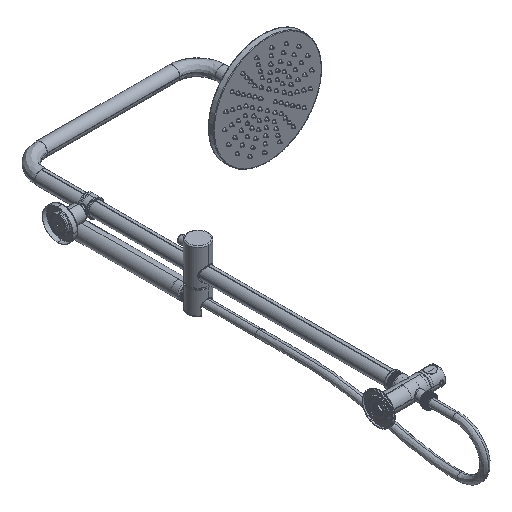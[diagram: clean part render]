
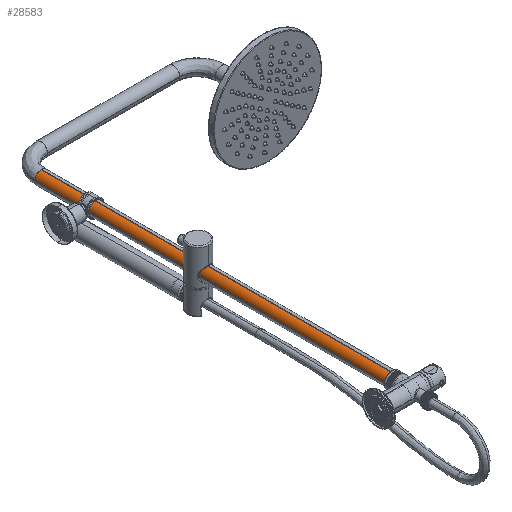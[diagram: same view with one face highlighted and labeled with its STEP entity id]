
A CAD part, isometric view. The second image highlights one B-rep face of the part: STEP entity #28583.
In plain terms, the highlighted cylindrical face has radius 12.5 mm (diameter 25 mm), a partial arc.
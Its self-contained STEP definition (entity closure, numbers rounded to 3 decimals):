
#1572 = VERTEX_POINT ( 'NONE', #90751 ) ;
#2021 = VECTOR ( 'NONE', #104602, 1000. ) ;
#14437 = VERTEX_POINT ( 'NONE', #61412 ) ;
#18488 = CIRCLE ( 'NONE', #69126, 12.5 ) ;
#18535 = CYLINDRICAL_SURFACE ( 'NONE', #29528, 12.5 ) ;
#23932 = DIRECTION ( 'NONE',  ( 0., 1., 0. ) ) ;
#24786 = VECTOR ( 'NONE', #97932, 1000. ) ;
#28583 = ADVANCED_FACE ( 'NONE', ( #83779 ), #18535, .T. ) ;
#29528 = AXIS2_PLACEMENT_3D ( 'NONE', #36822, #81375, #92353 ) ;
#33244 = DIRECTION ( 'NONE',  ( 0., 0., 1. ) ) ;
#36822 = CARTESIAN_POINT ( 'NONE',  ( 0., 0., 0. ) ) ;
#37869 = VERTEX_POINT ( 'NONE', #98079 ) ;
#38213 = EDGE_CURVE ( 'NONE', #14437, #51148, #18488, .T. ) ;
#39321 = LINE ( 'NONE', #75362, #2021 ) ;
#40599 = DIRECTION ( 'NONE',  ( 0., -1., 0. ) ) ;
#42833 = EDGE_CURVE ( 'NONE', #51148, #1572, #116233, .T. ) ;
#48496 = CIRCLE ( 'NONE', #52321, 12.5 ) ;
#51148 = VERTEX_POINT ( 'NONE', #111670 ) ;
#52321 = AXIS2_PLACEMENT_3D ( 'NONE', #79464, #23932, #70298 ) ;
#58318 = CARTESIAN_POINT ( 'NONE',  ( 0., 658., 0. ) ) ;
#61412 = CARTESIAN_POINT ( 'NONE',  ( 0., 658., 12.5 ) ) ;
#65048 = EDGE_CURVE ( 'NONE', #1572, #37869, #48496, .T. ) ;
#69126 = AXIS2_PLACEMENT_3D ( 'NONE', #58318, #40599, #33244 ) ;
#70298 = DIRECTION ( 'NONE',  ( 0., 0., 1. ) ) ;
#75362 = CARTESIAN_POINT ( 'NONE',  ( 0., 0., 12.5 ) ) ;
#79464 = CARTESIAN_POINT ( 'NONE',  ( 0., 0., 0. ) ) ;
#80303 = ORIENTED_EDGE ( 'NONE', *, *, #42833, .T. ) ;
#81375 = DIRECTION ( 'NONE',  ( 0., 1., 0. ) ) ;
#83307 = ORIENTED_EDGE ( 'NONE', *, *, #104003, .T. ) ;
#83779 = FACE_OUTER_BOUND ( 'NONE', #116644, .T. ) ;
#87572 = CARTESIAN_POINT ( 'NONE',  ( -12.5, 0., 0. ) ) ;
#90751 = CARTESIAN_POINT ( 'NONE',  ( -12.5, 0., 0. ) ) ;
#92353 = DIRECTION ( 'NONE',  ( 0., 0., 1. ) ) ;
#97932 = DIRECTION ( 'NONE',  ( 0., -1., 0. ) ) ;
#98079 = CARTESIAN_POINT ( 'NONE',  ( 0., 0., 12.5 ) ) ;
#102992 = ORIENTED_EDGE ( 'NONE', *, *, #38213, .T. ) ;
#104003 = EDGE_CURVE ( 'NONE', #37869, #14437, #39321, .T. ) ;
#104602 = DIRECTION ( 'NONE',  ( 0., 1., 0. ) ) ;
#105953 = ORIENTED_EDGE ( 'NONE', *, *, #65048, .T. ) ;
#111670 = CARTESIAN_POINT ( 'NONE',  ( -12.5, 658., 0. ) ) ;
#116233 = LINE ( 'NONE', #87572, #24786 ) ;
#116644 = EDGE_LOOP ( 'NONE', ( #105953, #83307, #102992, #80303 ) ) ;
